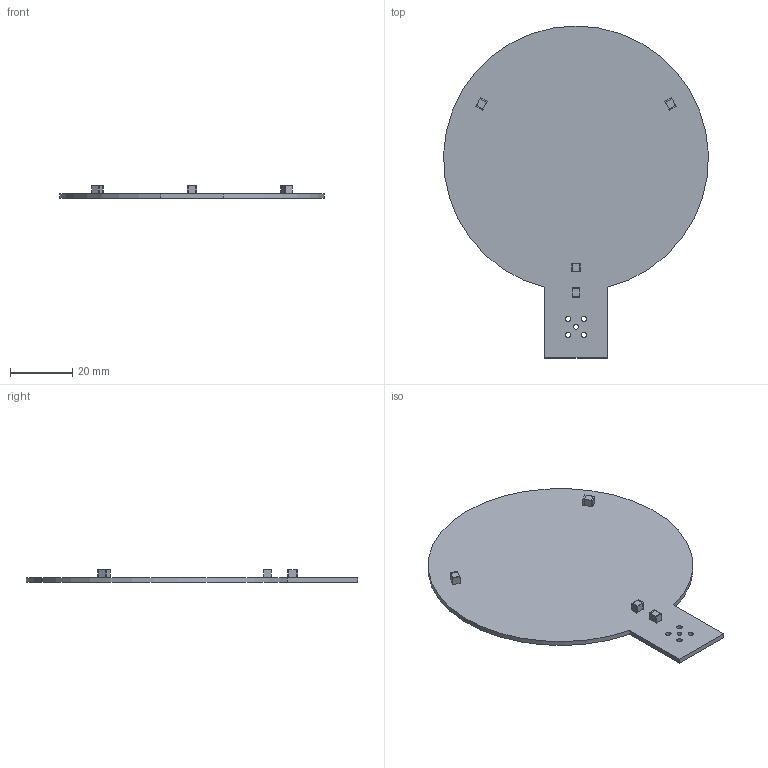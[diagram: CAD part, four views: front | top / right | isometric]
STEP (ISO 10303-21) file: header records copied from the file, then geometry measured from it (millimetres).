
FILE_DESCRIPTION(('KiCad electronic assembly'),'2;1');
FILE_NAME('pcb_and_capacitors_review.step','2026-11-18T10:23:39',( 'Pcbnew'),('Kicad'),'Open CASCADE STEP processor 7.6', 'KiCad to STEP converter','Unknown');
FILE_SCHEMA(('AUTOMOTIVE_DESIGN { 1 0 10303 214 1 1 1 1 }'));
Length unit declared in the file: millimetre
Products named in the file (3): pcb_and_capacitors_review 1; C_1210_3225Metric; rx_coil_3t_PCB
Assembly tree (5 placements, depth 2):
  pcb_and_capacitors_review 1
    C_1210_3225Metric  x4
    rx_coil_3t_PCB
Bounding box: 84.95 x 106.5 x 4.12 mm (x, y, z)
Volume: 9411.6 mm3; surface area: 12897.9 mm2
Topology: 5 solids, 5 shells, 123 faces, 315 edges, 210 vertices
Faces by surface type: plane 69, cylinder 54
Full cylindrical faces by diameter (mm): 1.5 x1, 1.7 x4
Entity records: 1286 total; most frequent: DIRECTION 225, CARTESIAN_POINT 210, ORIENTED_EDGE 198, EDGE_CURVE 99, AXIS2_PLACEMENT_3D 81, VERTEX_POINT 66, LINE 63, VECTOR 63
